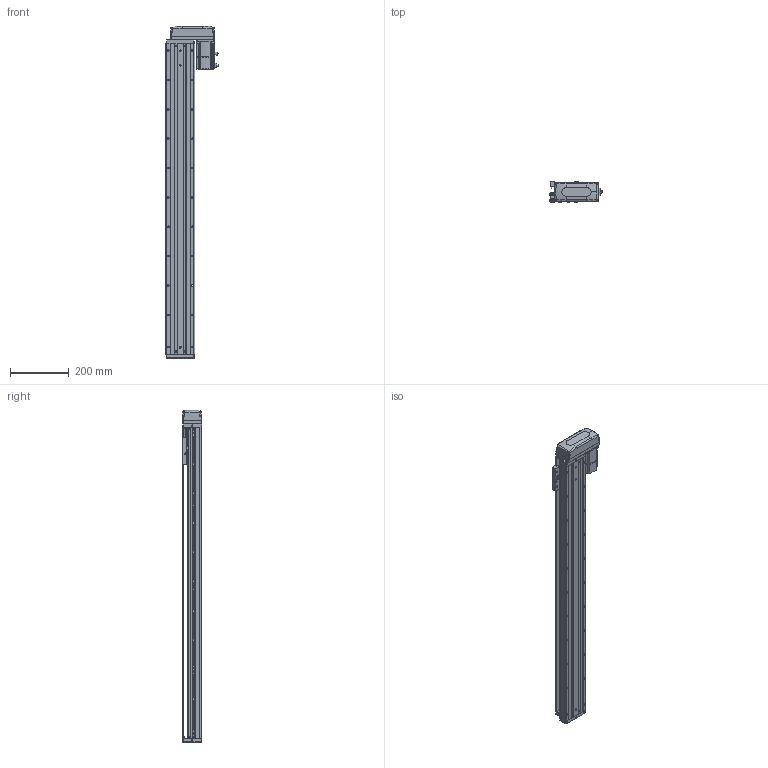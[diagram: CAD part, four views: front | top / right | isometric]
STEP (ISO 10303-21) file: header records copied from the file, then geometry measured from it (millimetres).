
FILE_DESCRIPTION (( 'STEP AP203' ), '1' );
FILE_NAME ('KTHA100-900-BL-M20-C4L.step', '2022-04-26T01:50:25', ( '微软用户' ), ( '微软中国' ), 'SwSTEP 2.0', 'SolidWorks 2020', '' );
FILE_SCHEMA (( 'CONFIG_CONTROL_DESIGN' ));
Length unit declared in the file: millimetre
Products named in the file (17): KTHA100-001_1060; CTHA60-021; CTHA86-015-1_CTHA86-015-2; KTHA100-002; GBT77-2000 M3×3; CTHA86-033; KTHA100-004; GBT 70.1-M3℅6; KTHA100-900-BL-M20-C4L; KTHA100-005; GBT70.1 M5℅16; GB¨uT 70.2-M3¡Á5_M3¡Á6; CTHA60-016; EE_SX911P_R; GBT 70.3-M3℅6; CTHA60-017; _X2_4E0983F1_X0_200W_1
Assembly tree (57 placements, depth 2):
  KTHA100-900-BL-M20-C4L
    KTHA100-001_1060
    KTHA100-002
    KTHA100-004
    KTHA100-005
    GB¨uT 70.2-M3¡Á5_M3¡Á6  x6
    EE_SX911P_R  x3
    CTHA60-017  x3
    CTHA60-021  x2
    GBT77-2000 M3×3  x6
    GBT 70.1-M3℅6  x10
    GBT70.1 M5℅16  x14
    CTHA60-016  x2
    GBT 70.3-M3℅6  x4
    _X2_4E0983F1_X0_200W_1
    CTHA86-015-1_CTHA86-015-2
    CTHA86-033
Bounding box: 177.7 x 68 x 1131 mm (x, y, z)
Volume: 4762361.3 mm3; surface area: 771234.3 mm2
Topology: 60 solids, 60 shells, 2497 faces, 6001 edges, 3724 vertices
Faces by surface type: plane 1280, cylinder 695, cone 315, torus 116, bspline 75, sphere 16
Entity records: 43886 total; most frequent: CARTESIAN_POINT 8784, DIRECTION 6822, ORIENTED_EDGE 6614, EDGE_CURVE 3307, AXIS2_PLACEMENT_3D 2370, VERTEX_POINT 2084, VECTOR 2082, LINE 2082
